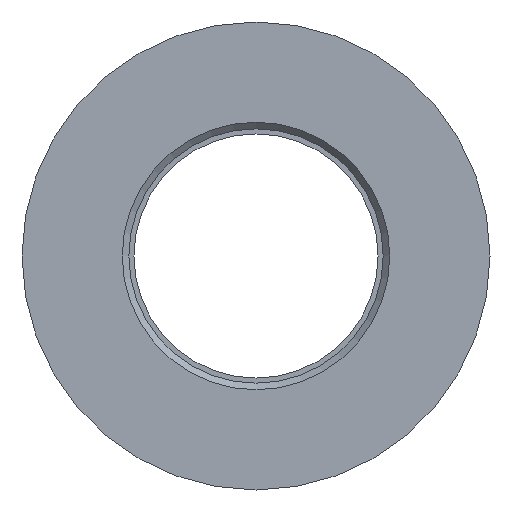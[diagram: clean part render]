
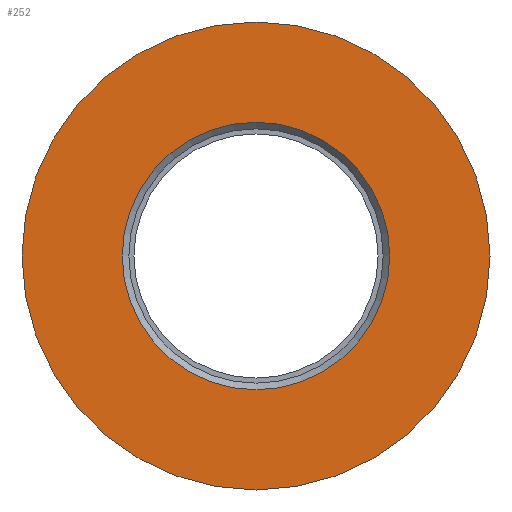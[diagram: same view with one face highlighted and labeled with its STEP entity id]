
A CAD part, left-side view. The second image highlights one B-rep face of the part: STEP entity #252.
In plain terms, the highlighted planar face has unit normal (-1, 0, 0).
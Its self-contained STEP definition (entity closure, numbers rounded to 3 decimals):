
#22=FACE_BOUND('',#59,.T.);
#29=PLANE('',#298);
#40=FACE_OUTER_BOUND('',#58,.T.);
#58=EDGE_LOOP('',(#188));
#59=EDGE_LOOP('',(#189));
#101=CIRCLE('',#293,6.575);
#105=CIRCLE('',#299,11.5);
#121=VERTEX_POINT('',#424);
#125=VERTEX_POINT('',#436);
#143=EDGE_CURVE('',#121,#121,#101,.T.);
#149=EDGE_CURVE('',#125,#125,#105,.T.);
#188=ORIENTED_EDGE('',*,*,#149,.F.);
#189=ORIENTED_EDGE('',*,*,#143,.F.);
#252=ADVANCED_FACE('',(#40,#22),#29,.T.);
#293=AXIS2_PLACEMENT_3D('',#425,#343,#344);
#298=AXIS2_PLACEMENT_3D('',#435,#355,#356);
#299=AXIS2_PLACEMENT_3D('',#437,#357,#358);
#343=DIRECTION('center_axis',(-1.,0.,0.));
#344=DIRECTION('ref_axis',(0.,-1.,0.));
#355=DIRECTION('center_axis',(-1.,0.,0.));
#356=DIRECTION('ref_axis',(0.,0.,1.));
#357=DIRECTION('center_axis',(1.,0.,0.));
#358=DIRECTION('ref_axis',(0.,0.,-1.));
#424=CARTESIAN_POINT('',(0.,6.575,0.));
#425=CARTESIAN_POINT('Origin',(0.,0.,0.));
#435=CARTESIAN_POINT('Origin',(0.,11.5,0.));
#436=CARTESIAN_POINT('',(0.,-11.5,0.));
#437=CARTESIAN_POINT('Origin',(0.,0.,0.));
